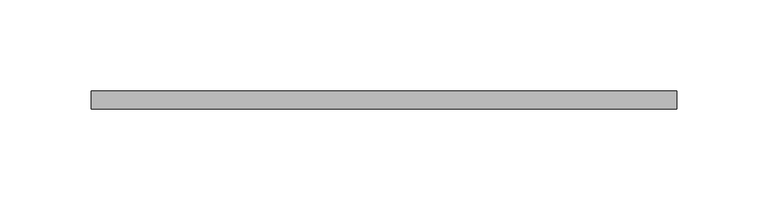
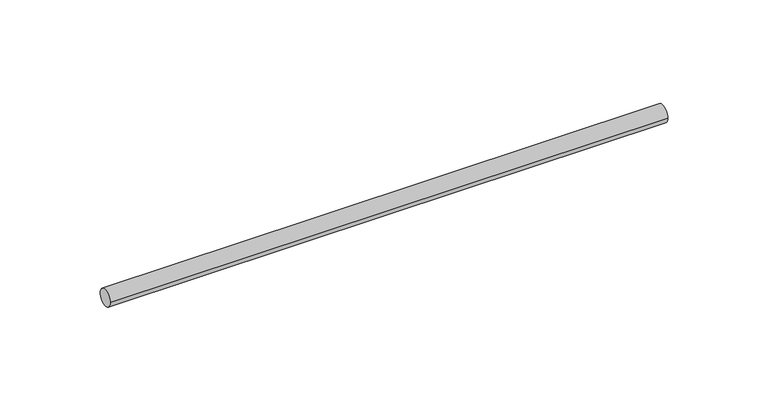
"""IFC4 building model written with IfcOpenShell, lengths in millimetres: valve geometry, Superfix Threaded Rod (used for clamps) : Threaded Rod  Extra  - 1000 mm (used for clamps)."""

import ifcopenshell
import ifcopenshell.guid

model = None  # the IFC model being written
_history = None  # IfcOwnerHistory: only IFC2X3 demands one
_inside = {}  # id of a spatial element -> (the spatial element, [elements in it])
_under = {}  # id of a project, library or spatial element -> (it, [spatial elements below it])
_declared = {}  # id of a project -> (the project, [libraries it declares])
_typed = {}  # id of a type object -> (the type object, [elements of that type])
_made_of = {}  # id of a material, layer set ... -> (it, [elements and type objects made of it])


def new_model(schema):
    """Start an empty IFC model of exactly this schema.

    Asked for "IFC4X3", IfcOpenShell would pick the latest addendum, in which some entities
    have other attributes; the version numbers below select the first issue.
    IFC2X3 requires an IfcOwnerHistory on every rooted entity: one is made here for all.
    """
    global model, _history
    if schema == "IFC4X3":
        model = ifcopenshell.file(schema_version=(4, 3, 0, 0))
    else:
        model = ifcopenshell.file(schema=schema)
    _inside.clear()
    _under.clear()
    _declared.clear()
    _typed.clear()
    _made_of.clear()
    _history = None
    if model.schema == "IFC2X3":
        org = make("IfcOrganization", Name="unknown")
        user = make(
            "IfcPersonAndOrganization",
            ThePerson=make("IfcPerson", FamilyName="unknown"),
            TheOrganization=org,
        )
        app = make(
            "IfcApplication",
            ApplicationDeveloper=org,
            Version="unknown",
            ApplicationFullName="unknown",
            ApplicationIdentifier="unknown",
        )
        _history = make(
            "IfcOwnerHistory",
            OwningUser=user,
            OwningApplication=app,
            ChangeAction="ADDED",
            CreationDate=0,
        )
    return model


def make(cls, **values):
    """One entity of the class cls with the attributes given. An attribute that is None is left unset."""
    return model.create_entity(
        cls, **{name: value for name, value in values.items() if value is not None}
    )


def rooted(cls, **values):
    """An entity with a GlobalId (a new one), such as an element, a storey or a relation."""
    return make(cls, GlobalId=ifcopenshell.guid.new(), OwnerHistory=_history, **values)


def si_unit(unit_type, name, prefix=None):
    """IfcSIUnit, for example si_unit("LENGTHUNIT", "METRE", prefix="MILLI")."""
    return make("IfcSIUnit", UnitType=unit_type, Prefix=prefix, Name=name)


def assignment(units):
    """IfcUnitAssignment: the units of a project."""
    return None if units is None else make("IfcUnitAssignment", Units=units)


def point(xyz):
    """IfcCartesianPoint."""
    return None if xyz is None else make("IfcCartesianPoint", Coordinates=xyz)


def direction(xyz):
    """IfcDirection."""
    return None if xyz is None else make("IfcDirection", DirectionRatios=xyz)


def frame(location, z_axis=None, x_axis=None):
    """IfcAxis2Placement3D, a coordinate frame: its origin and axes. An axis left out is left unset."""
    return make(
        "IfcAxis2Placement3D",
        Location=point(location),
        Axis=direction(z_axis),
        RefDirection=direction(x_axis),
    )


def frame_2d(location, x_axis=None):
    """IfcAxis2Placement2D, a coordinate frame in the plane: its origin and x axis."""
    return make(
        "IfcAxis2Placement2D", Location=point(location), RefDirection=direction(x_axis)
    )


def origin():
    """The frame at (0, 0, 0) with its axes left unset."""
    return frame((0.0, 0.0, 0.0))


def origin_2d():
    """The frame at (0, 0) in the plane with its x axis left unset."""
    return frame_2d((0.0, 0.0))


def place(relative_to, where):
    """IfcLocalPlacement: puts the frame where relative to a parent placement (None: the world)."""
    return make(
        "IfcLocalPlacement", PlacementRelTo=relative_to, RelativePlacement=where
    )


def context(
    kind, dimensions, precision=None, world=None, true_north=None, identifier=None
):
    """IfcGeometricRepresentationContext, for example the 3D "Model" context."""
    return make(
        "IfcGeometricRepresentationContext",
        ContextIdentifier=identifier,
        ContextType=kind,
        CoordinateSpaceDimension=dimensions,
        Precision=precision,
        WorldCoordinateSystem=world,
        TrueNorth=true_north,
    )


def project(units=None, contexts=None):
    """IfcProject with its units and contexts."""
    return rooted(
        "IfcProject",
        Name="project",
        RepresentationContexts=contexts,
        UnitsInContext=assignment(units),
    )


def spatial(cls, under=None, at=None, **own):
    """A site, building, storey or space (cls), placed at a placement, below another one or the project."""
    s = rooted(cls, ObjectPlacement=at, **own)
    if under is not None:
        _under.setdefault(under.id(), (under, []))[1].append(s)
    return s


def circle_curve(where, radius):
    """IfcCircle in the frame where."""
    return make("IfcCircle", Position=where, Radius=radius)


def trimmed(basis, trim1, trim2, sense, master):
    """IfcTrimmedCurve: the piece of a basis curve between two trims."""
    return make(
        "IfcTrimmedCurve",
        BasisCurve=basis,
        Trim1=trim1,
        Trim2=trim2,
        SenseAgreement=sense,
        MasterRepresentation=master,
    )


def segment(curve, same_sense, transition):
    """IfcCompositeCurveSegment."""
    return make(
        "IfcCompositeCurveSegment",
        Transition=transition,
        SameSense=same_sense,
        ParentCurve=curve,
    )


def composite_curve(segments, self_intersect=None):
    """IfcCompositeCurve: segments joined end to end."""
    return make("IfcCompositeCurve", Segments=segments, SelfIntersect=self_intersect)


def outline(outer, holes=None, kind="AREA"):
    """IfcArbitraryClosedProfileDef: a profile drawn as a closed curve; with holes, ...WithVoids."""
    if holes is None:
        return make("IfcArbitraryClosedProfileDef", ProfileType=kind, OuterCurve=outer)
    return make(
        "IfcArbitraryProfileDefWithVoids",
        ProfileType=kind,
        OuterCurve=outer,
        InnerCurves=holes,
    )


def extrude(swept, where, along, depth):
    """IfcExtrudedAreaSolid: the profile swept, set in the frame where, extruded along a direction by depth."""
    return make(
        "IfcExtrudedAreaSolid",
        SweptArea=swept,
        Position=where,
        ExtrudedDirection=direction(along),
        Depth=depth,
    )


def shape(context_of_items, identifier, shape_type, items):
    """IfcShapeRepresentation: the items that make up one representation, for example the "Body"."""
    return make(
        "IfcShapeRepresentation",
        ContextOfItems=context_of_items,
        RepresentationIdentifier=identifier,
        RepresentationType=shape_type,
        Items=items,
    )


def source(mapping_origin, context_of_items, identifier, shape_type, items):
    """IfcRepresentationMap: a shape defined once, which mapped items show again and again."""
    return make(
        "IfcRepresentationMap",
        MappingOrigin=mapping_origin,
        MappedRepresentation=shape(context_of_items, identifier, shape_type, items),
    )


def transform(
    local_origin,
    x_axis=None,
    y_axis=None,
    z_axis=None,
    scale=None,
    scale2=None,
    scale3=None,
    uniform=True,
):
    """IfcCartesianTransformationOperator3D, or its non-uniform kind. x_axis, y_axis, z_axis: its Axis1, 2, 3."""
    if uniform:
        return make(
            "IfcCartesianTransformationOperator3D",
            Axis1=direction(x_axis),
            Axis2=direction(y_axis),
            LocalOrigin=point(local_origin),
            Scale=scale,
            Axis3=direction(z_axis),
        )
    return make(
        "IfcCartesianTransformationOperator3DnonUniform",
        Axis1=direction(x_axis),
        Axis2=direction(y_axis),
        LocalOrigin=point(local_origin),
        Scale=scale,
        Axis3=direction(z_axis),
        Scale2=scale2,
        Scale3=scale3,
    )


def mapped(mapping_source, mapping_target):
    """IfcMappedItem: shows the shape of a source again, moved by a transform."""
    return make(
        "IfcMappedItem", MappingSource=mapping_source, MappingTarget=mapping_target
    )


def made_of(thing, what):
    """Note that an element or type object is made of a material, layer set ...; save() writes the relation."""
    if what is not None:
        _made_of.setdefault(what.id(), (what, []))[1].append(thing)
    return thing


def element(
    cls,
    number,
    at=None,
    inside=None,
    cuts=None,
    type_object=None,
    material=None,
    context=None,
    identifier="Body",
    shape_type=None,
    held_by="IfcProductDefinitionShape",
    body=None,
    shapes=None,
    **own,
):
    """One element of the class cls, such as IfcWall. Its Tag is "e" and its number.

    at: its placement. inside: the storey or other place that contains it. cuts: it is an
    opening in that element (IfcRelVoidsElement). A single representation is given by context,
    identifier, shape_type and body (its items); several are given by shapes. held_by: the class
    of the entity that holds the representations. save() writes the other relations.
    """
    e = rooted(cls, Tag="e%d" % number, ObjectPlacement=at, **own)
    if body is not None:
        shapes = [shape(context, identifier, shape_type, body)]
    if shapes is not None:
        e.Representation = make(held_by, Representations=shapes)
    if inside is not None:
        _inside.setdefault(inside.id(), (inside, []))[1].append(e)
    if cuts is not None:
        rooted(
            "IfcRelVoidsElement", RelatingBuildingElement=cuts, RelatedOpeningElement=e
        )
    if type_object is not None:
        _typed.setdefault(type_object.id(), (type_object, []))[1].append(e)
    return made_of(e, material)


def aggregate(whole, parts):
    """IfcRelAggregates: a whole, such as a stair, and the parts it consists of."""
    return rooted("IfcRelAggregates", RelatingObject=whole, RelatedObjects=parts)


def save(model, path):
    """Write the relations noted so far, then the file.

    IfcRelAggregates (storeys below a building ...), IfcRelContainedInSpatialStructure (elements
    in a storey), IfcRelDefinesByType, IfcRelAssociatesMaterial and IfcRelDeclares: one each for
    every whole, place, type object, material and project.
    """
    for whole, parts in _under.values():
        aggregate(whole, parts)
    for where, things in _inside.values():
        rooted(
            "IfcRelContainedInSpatialStructure",
            RelatedElements=things,
            RelatingStructure=where,
        )
    for kind, things in _typed.values():
        rooted("IfcRelDefinesByType", RelatedObjects=things, RelatingType=kind)
    for what, things in _made_of.values():
        rooted("IfcRelAssociatesMaterial", RelatedObjects=things, RelatingMaterial=what)
    for by, libraries in _declared.values():
        rooted("IfcRelDeclares", RelatingContext=by, RelatedDefinitions=libraries)
    model.write(path)


def valve_8158eccd(model_context):
    return source(origin(), model_context, "Body", "SweptSolid", [
        extrude(outline(composite_curve([segment(trimmed(circle_curve(origin_2d(), 5.0), [point((-5.0, 0.0))], [point((5.0, 0.0))], False, "CARTESIAN"), True, "CONTINUOUS"), segment(trimmed(circle_curve(origin_2d(), 5.0), [point((5.0, 0.0))], [point((-5.0, 0.0))], False, "CARTESIAN"), True, "CONTINUOUS")], self_intersect=False)), frame((-10.0, 0.0, 0.0), z_axis=(1.0, 0.0, 0.0), x_axis=(0.0, 1.0, 0.0)), (0.0, 0.0, 1.0), 321.5002332),
    ])


if __name__ == "__main__":
    model = new_model("IFC4")
    model_context = context("Model", 3, world=origin())
    ifc_project = project(units=[si_unit("LENGTHUNIT", "METRE", prefix="MILLI")], contexts=[model_context])
    site = spatial("IfcSite", under=ifc_project)
    building = spatial("IfcBuilding", under=site)
    placement = place(None, origin())
    valve_shape = valve_8158eccd(model_context)
    element("IfcValve", 1, ObjectType="Superfix Threaded Rod (used for clamps) : Threaded Rod  Extra  - 1000 mm (used for clamps)", at=placement, inside=building, context=model_context, shape_type="MappedRepresentation", body=[
        mapped(valve_shape, transform((0.0, 0.0, 0.0), x_axis=(1.0, 0.0, 0.0), y_axis=(0.0, 1.0, 0.0), z_axis=(0.0, 0.0, 1.0))),
    ])
    save(model, "model.ifc")
